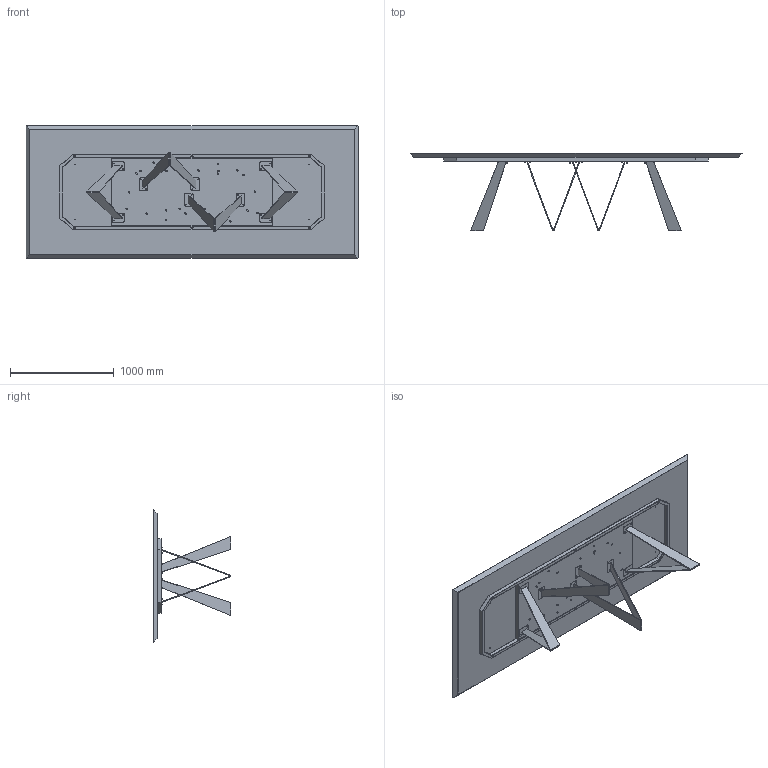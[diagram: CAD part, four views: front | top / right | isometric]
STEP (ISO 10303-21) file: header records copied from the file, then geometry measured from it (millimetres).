
FILE_DESCRIPTION (( 'STEP AP203' ), '1' );
FILE_NAME ('NO24W_Noa_300x120x75h_Wood Rectangular.STEP', '2024-08-07T14:28:43', ( '' ), ( '' ), 'SwSTEP 2.0', 'SolidWorks 2022', '' );
FILE_SCHEMA (( 'CONFIG_CONTROL_DESIGN' ));
Length unit declared in the file: millimetre
Products named in the file (13): Assieme NOA var 3_noa 300-320; NO24W_Noa_300x120x75h_Wood Rectangular; M8xXXmm_M8x55mm; NOA000001GMB-00-Piastra Principale gamba NOA_Piatto DX; TTAV07_02-01-VASSOIO TELAIO  PLAI ONDA NOA 300; M8xXXmm_M8x20mm; TTAV07-04-TELAIO X TAVOLI PLAI ONDA NOA 300; MAPPA; NOA000001PTRS-00-Piastra rettangoalre con fori; W2XCMXX-00-Piani Rettangolari in legno_3200 x 1280; NOA000000-00-NOA BASE GREZZA; TTAV07_01-04-STRUTTURA TAVOLI PLAI ONDA NOA 300; NOA000001GMB-00-Piastra Principale gamba NOA_Piatto SX
Assembly tree (35 placements, depth 4):
  NO24W_Noa_300x120x75h_Wood Rectangular
    W2XCMXX-00-Piani Rettangolari in legno_3200 x 1280
    Assieme NOA var 3_noa 300-320
      NOA000000-00-NOA BASE GREZZA  x4
        NOA000001GMB-00-Piastra Principale gamba NOA_Piatto SX
        NOA000001GMB-00-Piastra Principale gamba NOA_Piatto DX
        NOA000001PTRS-00-Piastra rettangoalre con fori
      TTAV07-04-TELAIO X TAVOLI PLAI ONDA NOA 300
        TTAV07_01-04-STRUTTURA TAVOLI PLAI ONDA NOA 300
        TTAV07_02-01-VASSOIO TELAIO  PLAI ONDA NOA 300
    M8xXXmm_M8x55mm  x6
    M8xXXmm_M8x20mm  x16
  MAPPA
Bounding box: 3200 x 747.8 x 1280 mm (x, y, z)
Volume: 161424442.7 mm3; surface area: 13761997.9 mm2
Topology: 41 solids, 41 shells, 1322 faces, 3136 edges, 1856 vertices
Faces by surface type: plane 576, cylinder 376, cone 266, torus 88, sphere 16
Entity records: 18254 total; most frequent: CARTESIAN_POINT 2963, DIRECTION 2888, ORIENTED_EDGE 2672, EDGE_CURVE 1336, AXIS2_PLACEMENT_3D 1049, VERTEX_POINT 840, LINE 790, VECTOR 790
